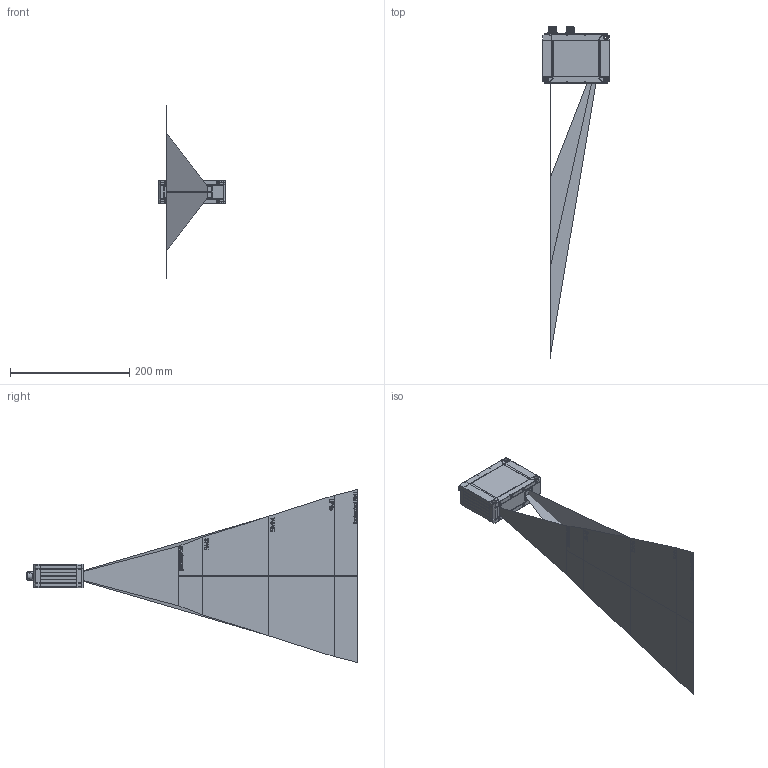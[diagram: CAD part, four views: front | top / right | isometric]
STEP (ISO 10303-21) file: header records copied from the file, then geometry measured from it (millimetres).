
FILE_DESCRIPTION (( 'STEP AP214' ), '1' );
FILE_NAME ('LLT30xx MB200 Rot AA.STEP', '2021-06-24T13:54:15', ( '' ), ( '' ), 'SwSTEP 2.0', 'SolidWorks 2020', '' );
FILE_SCHEMA (( 'AUTOMOTIVE_DESIGN' ));
Length unit declared in the file: millimetre
Products named in the file (1): LLT30xx MB200 Rot AA
Bounding box: 112 x 556 x 290 mm (x, y, z)
Volume: 357926.6 mm3; surface area: 279589.5 mm2
Topology: 62 solids, 66 shells, 1754 faces, 4446 edges, 2902 vertices
Faces by surface type: plane 1019, bspline 358, cylinder 233, cone 116, torus 28
Full cylindrical faces by diameter (mm): 0.7 x12, 0.85 x8, 1 x8, 1.4 x8, 1.5 x16, 1.55 x1, 2.4 x19, 4.2 x3, 4.4 x16, 8 x4, 9.4 x3, 9.5 x1, 9.6 x4, 10.7 x2, 10.75 x2, 11 x12, 13.5 x2
Entity records: 96465 total; most frequent: CARTESIAN_POINT 38507, ORIENTED_EDGE 8340, DIRECTION 6476, EDGE_CURVE 4170, VERTEX_POINT 2826, VECTOR 2598, LINE 2598, EDGE_LOOP 2088
